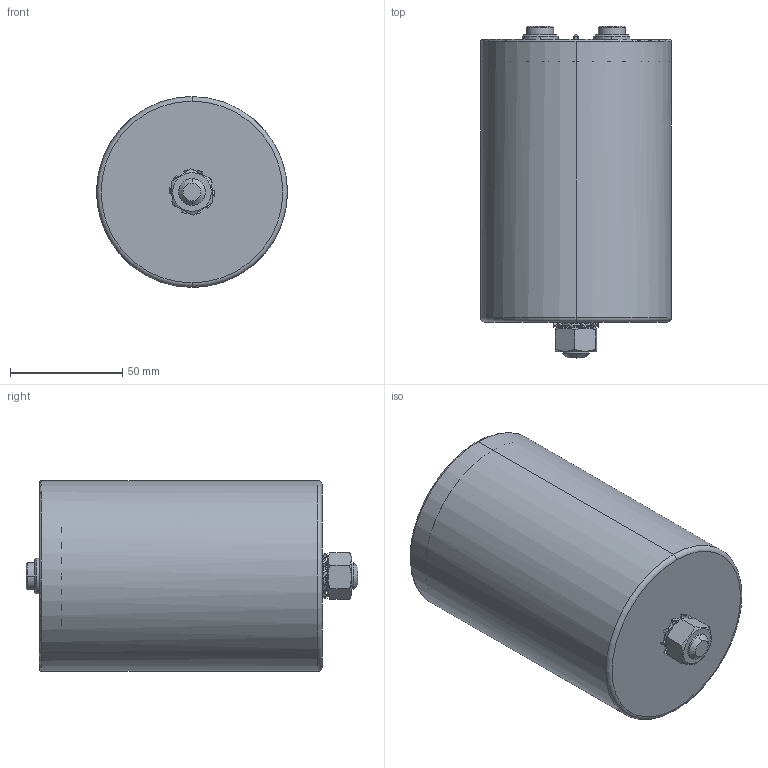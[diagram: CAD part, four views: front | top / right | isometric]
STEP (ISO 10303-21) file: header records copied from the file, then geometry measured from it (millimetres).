
FILE_DESCRIPTION (( 'STEP AP214' ), '1' );
FILE_NAME ('B25696 Series D85Hc126Ht132.STEP', '2025-03-20T05:33:38', ( '' ), ( '' ), 'SwSTEP 2.0', 'SolidWorks 2019', '' );
FILE_SCHEMA (( 'AUTOMOTIVE_DESIGN' ));
Length unit declared in the file: millimetre
Products named in the file (1): B25696 Series D85Hc126Ht132
Bounding box: 85 x 148 x 85 mm (x, y, z)
Volume: 111238.4 mm3; surface area: 104214.8 mm2
Topology: 1 solids, 2 shells, 275 faces, 754 edges, 488 vertices
Faces by surface type: plane 88, cylinder 70, cone 47, bspline 40, torus 30
Entity records: 9636 total; most frequent: CARTESIAN_POINT 3070, ORIENTED_EDGE 1500, DIRECTION 1212, EDGE_CURVE 750, VERTEX_POINT 488, AXIS2_PLACEMENT_3D 472, EDGE_LOOP 304, ADVANCED_FACE 275
